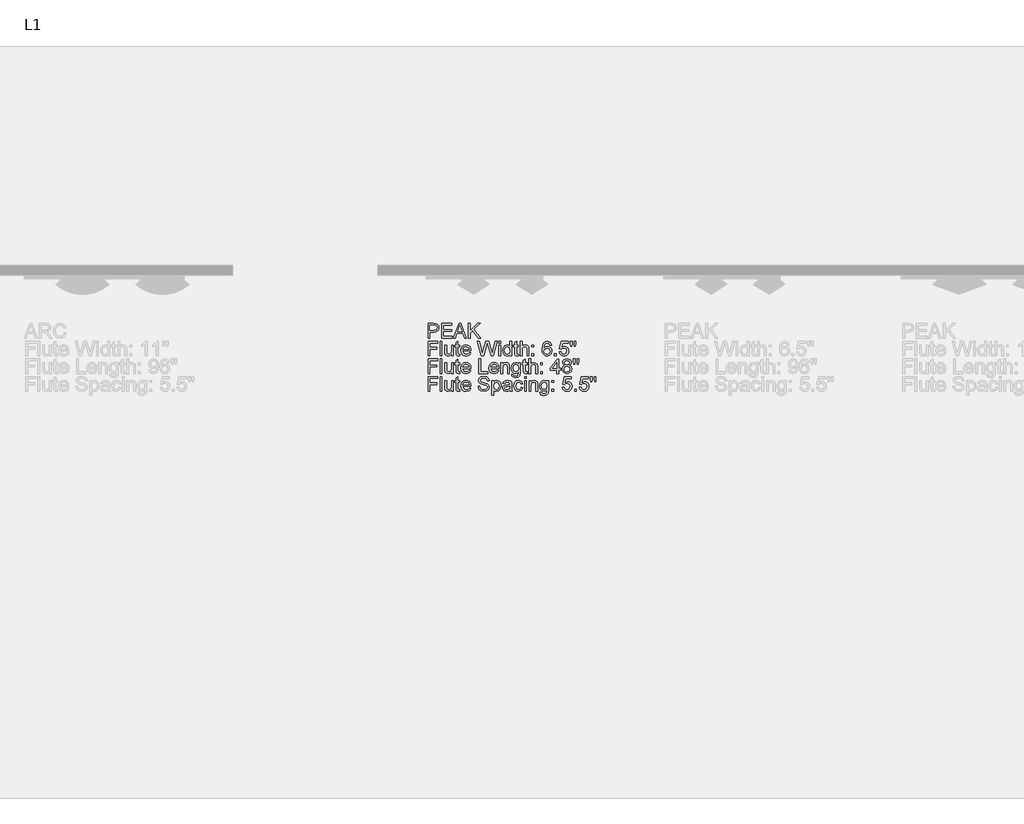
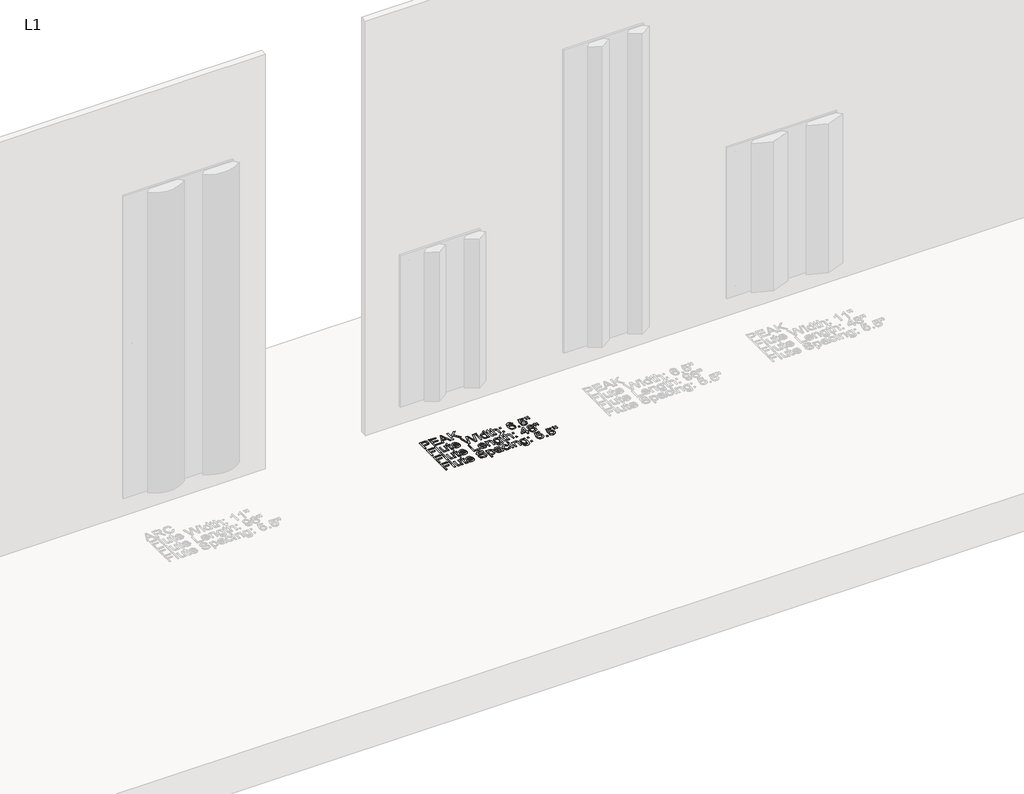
# One storey, part 7 of 17: 1 proxy.
"""IFC4 building model written with IfcOpenShell, lengths in millimetres."""

from ifc_helpers import new_model, si_unit, origin, origin_with_axes, place, context, project, spatial, polyline, outline, extrude, element, save

model = new_model("IFC4")

# Units and contexts
model_context = context("Model", 3, world=origin())
ifc_project = project(units=[si_unit("LENGTHUNIT", "METRE", prefix="MILLI")], contexts=[model_context])

# Site, building, storey
site = spatial("IfcSite", under=ifc_project)
building = spatial("IfcBuilding", under=site)
storey = spatial("IfcBuildingStorey", under=building, Name="L1", Elevation=0.0)

# Proxy
placement = place(None, origin())
element("IfcBuildingElementProxy", 1, Name="3\" Arial", ObjectType="3\" Arial", at=placement, inside=storey, context=model_context, shape_type="SweptSolid", body=[
    extrude(outline(polyline([(7583.9224056, -355.6), (7583.9224056, -279.0522917), (7612.2914049, -279.0522917), (7623.728709, -279.7811395), (7633.0261907, -283.3599691), (7639.0532014, -290.7605776), (7641.3331868, -301.198052), (7639.7937295, -310.2198797), (7635.1753573, -317.7372908), (7626.538978, -322.8111928), (7612.9454991, -324.5024935), (7593.4908691, -324.5024935), (7593.4908691, -355.6), (7583.9224056, -355.6)]), holes=[polyline([(7593.4908691, -314.9340299), (7613.5061513, -314.9340299), (7627.5972089, -311.4206097), (7631.7647233, -301.5344433), (7629.307198, -293.6105594), (7622.850354, -289.2748494), (7613.2818904, -288.6207552), (7593.4908691, -288.6207552), (7593.4908691, -314.9340299)])]), origin_with_axes(), (0.0, 0.0, 1.0), 3.175),
    extrude(outline(polyline([(7654.4898242, -355.6), (7654.4898242, -279.0522917), (7709.5084896, -279.0522917), (7709.5084896, -288.6207552), (7664.0582878, -288.6207552), (7664.0582878, -311.3458561), (7707.1163737, -311.3458561), (7707.1163737, -320.9143197), (7664.0582878, -320.9143197), (7664.0582878, -346.0315365), (7710.7045475, -346.0315365), (7710.7045475, -355.6), (7654.4898242, -355.6)])), origin_with_axes(), (0.0, 0.0, 1.0), 3.175),
    extrude(outline(polyline([(7716.1615619, -355.6), (7746.7171046, -279.0522917), (7754.8652494, -279.0522917), (7785.4021037, -355.6), (7775.2916764, -355.6), (7766.5455027, -331.6788411), (7734.9994745, -331.6788411), (7726.2533008, -355.6), (7716.1615619, -355.6)]), holes=[polyline([(7738.5128947, -322.1103776), (7763.0507709, -322.1103776), (7756.1360609, -303.2911534), (7750.7724886, -288.6207552), (7746.0069452, -301.6465737), (7738.5128947, -322.1103776)])]), origin_with_axes(), (0.0, 0.0, 1.0), 3.175),
    extrude(outline(polyline([(7795.6246615, -355.6), (7795.6246615, -279.0522917), (7805.193125, -279.0522917), (7805.193125, -316.5225444), (7844.4387762, -279.0522917), (7857.8196745, -279.0522917), (7824.8533274, -310.5235663), (7859.0157324, -355.6), (7847.3167907, -355.6), (7818.0694363, -316.9897545), (7805.193125, -329.2867253), (7805.193125, -355.6), (7795.6246615, -355.6)])), origin_with_axes(), (0.0, 0.0, 1.0), 3.175),
    extrude(outline(polyline([(7583.9224056, -448.5448112), (7583.9224056, -371.9971029), (7635.3528971, -371.9971029), (7635.3528971, -381.5655664), (7593.4908691, -381.5655664), (7593.4908691, -404.2906673), (7629.3726074, -404.2906673), (7629.3726074, -413.8591309), (7593.4908691, -413.8591309), (7593.4908691, -448.5448112), (7583.9224056, -448.5448112)])), origin_with_axes(), (0.0, 0.0, 1.0), 3.175),
    extrude(outline(polyline([(7647.3134766, -448.5448112), (7647.3134766, -371.9971029), (7656.8819401, -371.9971029), (7656.8819401, -448.5448112), (7647.3134766, -448.5448112)])), origin_with_axes(), (0.0, 0.0, 1.0), 3.175),
    extrude(outline(polyline([(7707.1163737, -448.5448112), (7707.1163737, -438.8829056), (7699.6223232, -447.0263783), (7689.8482872, -449.7408691), (7680.84982, -447.8346518), (7674.6452694, -443.05042), (7671.7952876, -436.0048912), (7671.2346354, -427.1092103), (7671.2346354, -392.3300879), (7680.803099, -392.3300879), (7680.803099, -422.6053046), (7681.3824395, -432.3606522), (7685.1668416, -438.0886484), (7692.2964683, -440.1724056), (7700.2857615, -438.0419274), (7705.5652361, -432.2391775), (7707.1163737, -421.5774423), (7707.1163737, -392.3300879), (7716.6848372, -392.3300879), (7716.6848372, -448.5448112), (7707.1163737, -448.5448112)])), origin_with_axes(), (0.0, 0.0, 1.0), 3.175),
    extrude(outline(polyline([(7750.1744596, -440.5648621), (7751.3705176, -448.8251373), (7744.2128583, -449.7408691), (7736.1955324, -448.1523547), (7732.1962137, -443.9848403), (7731.0375326, -433.1268768), (7731.0375326, -401.8985514), (7723.8611849, -401.8985514), (7723.8611849, -392.3300879), (7731.0375326, -392.3300879), (7731.0375326, -378.6688636), (7740.6059961, -373.0436536), (7740.6059961, -392.3300879), (7750.1744596, -392.3300879), (7750.1744596, -401.8985514), (7740.6059961, -401.8985514), (7740.6059961, -432.8465507), (7741.110583, -437.7802897), (7742.7458185, -439.5276556), (7746.0069452, -440.1724056), (7750.1744596, -440.5648621)])), origin_with_axes(), (0.0, 0.0, 1.0), 3.175),
    extrude(outline(polyline([(7799.1007049, -431.8), (7808.4822843, -432.9960579), (7799.708078, -445.3490939), (7783.3650675, -449.7408691), (7772.138008, -447.846332), (7763.4992927, -442.1627208), (7757.9908852, -433.0591313), (7756.1547494, -420.9046597), (7758.0095736, -408.3413792), (7763.5740463, -398.9457834), (7772.0959591, -393.0869683), (7782.8231038, -391.1340299), (7793.2161932, -393.0822962), (7801.5208533, -398.927095), (7806.9661875, -408.3040024), (7808.7812988, -420.8485945), (7808.7252336, -423.4275944), (7765.7232129, -423.4275944), (7771.2269483, -435.855384), (7783.5519516, -440.1724056), (7792.9335311, -438.1727462), (7799.1007049, -431.8)]), holes=[polyline([(7765.7232129, -413.8591309), (7799.2128353, -413.8591309), (7795.3817122, -405.1877108), (7782.785727, -400.7024935), (7771.0026874, -404.2813231), (7765.7232129, -413.8591309)])]), origin_with_axes(), (0.0, 0.0, 1.0), 3.175),
    extrude(outline(polyline([(7863.14587, -448.5448112), (7842.2709212, -371.9971029), (7852.1383993, -371.9971029), (7864.2484859, -422.3062901), (7867.986167, -437.8363549), (7871.9854857, -424.100377), (7887.1604709, -371.9971029), (7901.3823474, -371.9971029), (7912.4085065, -409.7663701), (7920.6127165, -437.8363549), (7924.2382671, -422.7548118), (7936.4417958, -371.9971029), (7946.3279622, -371.9971029), (7925.4717019, -448.5448112), (7915.2304557, -448.5448112), (7896.8597533, -389.4894503), (7894.2994417, -381.2478635), (7891.4214273, -391.1714068), (7874.6953045, -448.5448112), (7863.14587, -448.5448112)])), origin_with_axes(), (0.0, 0.0, 1.0), 3.175),
    extrude(outline(polyline([(7954.7003678, -381.5655664), (7954.7003678, -371.9971029), (7964.2688314, -371.9971029), (7964.2688314, -381.5655664), (7954.7003678, -381.5655664)])), origin_with_axes(), (0.0, 0.0, 1.0), 3.175),
    extrude(outline(polyline([(7954.7003678, -448.5448112), (7954.7003678, -392.3300879), (7964.2688314, -392.3300879), (7964.2688314, -448.5448112), (7954.7003678, -448.5448112)])), origin_with_axes(), (0.0, 0.0, 1.0), 3.175),
    extrude(outline(polyline([(8013.307207, -448.5448112), (8013.307207, -439.5183114), (8006.9765097, -447.1852297), (7998.2256639, -449.7408691), (7986.3772149, -446.0405649), (7978.0048093, -435.7152209), (7975.0333529, -420.4935148), (7977.7712043, -405.2624644), (7985.9754142, -394.778269), (7998.1882871, -391.1340299), (8007.0092144, -393.7410625), (8013.307207, -400.5156094), (8013.307207, -371.9971029), (8022.8756706, -371.9971029), (8022.8756706, -448.5448112), (8013.307207, -448.5448112)]), holes=[polyline([(7984.6018164, -420.4561379), (7988.918838, -435.2666992), (7999.104019, -440.1724056), (8009.1677252, -435.4909601), (8013.307207, -421.1849858), (8009.0929716, -405.6549209), (7998.7115625, -400.7024935), (7988.638512, -405.4586927), (7984.6018164, -420.4561379)])]), origin_with_axes(), (0.0, 0.0, 1.0), 3.175),
    extrude(outline(polyline([(8057.5613509, -440.5648621), (8058.7574089, -448.8251373), (8051.5997496, -449.7408691), (8043.5824237, -448.1523547), (8039.583105, -443.9848403), (8038.4244238, -433.1268768), (8038.4244238, -401.8985514), (8031.2480762, -401.8985514), (8031.2480762, -392.3300879), (8038.4244238, -392.3300879), (8038.4244238, -378.6688636), (8047.9928874, -373.0436536), (8047.9928874, -392.3300879), (8057.5613509, -392.3300879), (8057.5613509, -401.8985514), (8047.9928874, -401.8985514), (8047.9928874, -432.8465507), (8048.4974743, -437.7802897), (8050.1327098, -439.5276556), (8053.3938365, -440.1724056), (8057.5613509, -440.5648621)])), origin_with_axes(), (0.0, 0.0, 1.0), 3.175),
    extrude(outline(polyline([(8067.1298145, -448.5448112), (8067.1298145, -371.9971029), (8076.698278, -371.9971029), (8076.698278, -400.1418413), (8084.1596238, -393.3859828), (8093.3496472, -391.1340299), (8104.0954802, -393.5915553), (8110.6177337, -400.3847906), (8112.5800163, -412.9620874), (8112.5800163, -448.5448112), (8103.0115527, -448.5448112), (8103.0115527, -413.9525729), (8099.9653427, -403.860834), (8091.3312994, -400.7024935), (8083.4915133, -402.8329717), (8078.2587598, -408.607689), (8076.698278, -418.6807394), (8076.698278, -448.5448112), (8067.1298145, -448.5448112)])), origin_with_axes(), (0.0, 0.0, 1.0), 3.175),
    extrude(outline(polyline([(8128.1287695, -401.8985514), (8128.1287695, -392.3300879), (8137.6972331, -392.3300879), (8137.6972331, -401.8985514), (8128.1287695, -401.8985514)])), origin_with_axes(), (0.0, 0.0, 1.0), 3.175),
    extrude(outline(polyline([(8128.1287695, -448.5448112), (8128.1287695, -438.9763477), (8137.6972331, -438.9763477), (8137.6972331, -448.5448112), (8128.1287695, -448.5448112)])), origin_with_axes(), (0.0, 0.0, 1.0), 3.175),
    extrude(outline(polyline([(8232.1858106, -392.3300879), (8222.617347, -393.5261458), (8218.9917964, -385.5461967), (8209.4046444, -381.5655664), (8200.7706012, -383.8829287), (8194.2390035, -392.5823814), (8191.5198405, -409.6355512), (8199.9576555, -402.0013377), (8210.4138183, -399.5064355), (8219.253434, -401.2117525), (8226.672731, -406.3277035), (8231.7045841, -414.144129), (8233.3818685, -423.9508698), (8230.223528, -437.1542281), (8221.5334195, -446.4984308), (8208.9934995, -449.7408691), (8198.137872, -447.5917025), (8189.4921485, -441.1442027), (8183.8365698, -429.7629638), (8181.951377, -412.8125802), (8184.0444784, -393.7550788), (8190.3237826, -380.7245882), (8198.8970885, -374.1789742), (8210.0026734, -371.9971029), (8225.1215933, -377.398052), (8232.1858106, -392.3300879)]), holes=[polyline([(8191.5198405, -423.8013625), (8193.7344165, -432.0896703), (8199.6212642, -438.1073368), (8208.2459633, -440.1724056), (8219.5244159, -435.8927608), (8223.813405, -424.2685726), (8219.5804811, -413.1396273), (8207.8535068, -409.0748991), (8196.2760397, -413.1396273), (8191.5198405, -423.8013625)])]), origin_with_axes(), (0.0, 0.0, 1.0), 3.175),
    extrude(outline(polyline([(8246.5385059, -448.5448112), (8246.5385059, -438.9763477), (8256.1069694, -438.9763477), (8256.1069694, -448.5448112), (8246.5385059, -448.5448112)])), origin_with_axes(), (0.0, 0.0, 1.0), 3.175),
    extrude(outline(polyline([(8271.6557227, -428.2118262), (8281.2241862, -427.0157682), (8286.0457948, -436.8739021), (8296.0440917, -440.1724056), (8308.0420479, -435.5844021), (8312.3216927, -423.408906), (8308.3130298, -412.0463555), (8296.1935989, -407.8788411), (8287.7931607, -409.5421092), (8282.4202441, -413.8591309), (8272.8517806, -412.6630729), (8281.2241862, -373.1931608), (8318.3019824, -373.1931608), (8318.3019824, -382.7616243), (8288.961186, -382.7616243), (8284.8497368, -403.8421456), (8298.8473525, -398.3103776), (8307.7897544, -400.0250388), (8315.2183955, -405.1690224), (8320.2222161, -413.0088084), (8321.8901563, -422.810877), (8320.3904117, -432.3793406), (8315.8911781, -440.5648621), (8307.2758233, -447.4468674), (8296.0067148, -449.7408691), (8286.608783, -448.2668212), (8279.1217406, -443.8446773), (8273.9894373, -436.9883685), (8271.6557227, -428.2118262)])), origin_with_axes(), (0.0, 0.0, 1.0), 3.175),
    extrude(outline(polyline([(8332.5986125, -399.5064355), (8330.2625619, -384.7239069), (8330.2625619, -371.9971029), (8339.8310254, -371.9971029), (8339.8310254, -384.7239069), (8337.737924, -399.5064355), (8332.5986125, -399.5064355)])), origin_with_axes(), (0.0, 0.0, 1.0), 3.175),
    extrude(outline(polyline([(8351.6794744, -399.5064355), (8349.3994889, -384.7239069), (8349.3994889, -371.9971029), (8358.9679525, -371.9971029), (8358.9679525, -384.7239069), (8356.7253438, -399.5064355), (8351.6794744, -399.5064355)])), origin_with_axes(), (0.0, 0.0, 1.0), 3.175),
    extrude(outline(polyline([(7583.9224056, -541.4896224), (7583.9224056, -464.9419141), (7635.3528971, -464.9419141), (7635.3528971, -474.5103776), (7593.4908691, -474.5103776), (7593.4908691, -497.2354785), (7629.3726074, -497.2354785), (7629.3726074, -506.8039421), (7593.4908691, -506.8039421), (7593.4908691, -541.4896224), (7583.9224056, -541.4896224)])), origin_with_axes(), (0.0, 0.0, 1.0), 3.175),
    extrude(outline(polyline([(7647.3134766, -541.4896224), (7647.3134766, -464.9419141), (7656.8819401, -464.9419141), (7656.8819401, -541.4896224), (7647.3134766, -541.4896224)])), origin_with_axes(), (0.0, 0.0, 1.0), 3.175),
    extrude(outline(polyline([(7707.1163737, -541.4896224), (7707.1163737, -531.8277168), (7699.6223232, -539.9711895), (7689.8482872, -542.6856803), (7680.84982, -540.779463), (7674.6452694, -535.9952312), (7671.7952876, -528.9497024), (7671.2346354, -520.0540215), (7671.2346354, -485.2748991), (7680.803099, -485.2748991), (7680.803099, -515.5501158), (7681.3824395, -525.3054634), (7685.1668416, -531.0334596), (7692.2964683, -533.1172168), (7700.2857615, -530.9867386), (7705.5652361, -525.1839887), (7707.1163737, -514.5222535), (7707.1163737, -485.2748991), (7716.6848372, -485.2748991), (7716.6848372, -541.4896224), (7707.1163737, -541.4896224)])), origin_with_axes(), (0.0, 0.0, 1.0), 3.175),
    extrude(outline(polyline([(7750.1744596, -533.5096733), (7751.3705176, -541.7699485), (7744.2128583, -542.6856803), (7736.1955324, -541.0971659), (7732.1962137, -536.9296515), (7731.0375326, -526.071688), (7731.0375326, -494.8433626), (7723.8611849, -494.8433626), (7723.8611849, -485.2748991), (7731.0375326, -485.2748991), (7731.0375326, -471.6136748), (7740.6059961, -465.9884648), (7740.6059961, -485.2748991), (7750.1744596, -485.2748991), (7750.1744596, -494.8433626), (7740.6059961, -494.8433626), (7740.6059961, -525.7913619), (7741.110583, -530.7251009), (7742.7458185, -532.4724668), (7746.0069452, -533.1172168), (7750.1744596, -533.5096733)])), origin_with_axes(), (0.0, 0.0, 1.0), 3.175),
    extrude(outline(polyline([(7799.1007049, -524.7448112), (7808.4822843, -525.9408691), (7799.708078, -538.2939051), (7783.3650675, -542.6856803), (7772.138008, -540.7911432), (7763.4992927, -535.107532), (7757.9908852, -526.0039425), (7756.1547494, -513.8494709), (7758.0095736, -501.2861904), (7763.5740463, -491.8905946), (7772.0959591, -486.0317795), (7782.8231038, -484.0788411), (7793.2161932, -486.0271074), (7801.5208533, -491.8719062), (7806.9661875, -501.2488136), (7808.7812988, -513.7934057), (7808.7252336, -516.3724056), (7765.7232129, -516.3724056), (7771.2269483, -528.8001952), (7783.5519516, -533.1172168), (7792.9335311, -531.1175574), (7799.1007049, -524.7448112)]), holes=[polyline([(7765.7232129, -506.8039421), (7799.2128353, -506.8039421), (7795.3817122, -498.132522), (7782.785727, -493.6473047), (7771.0026874, -497.2261343), (7765.7232129, -506.8039421)])]), origin_with_axes(), (0.0, 0.0, 1.0), 3.175),
    extrude(outline(polyline([(7849.4472689, -541.4896224), (7849.4472689, -464.9419141), (7859.0157324, -464.9419141), (7859.0157324, -531.9211589), (7897.2895866, -531.9211589), (7897.2895866, -541.4896224), (7849.4472689, -541.4896224)])), origin_with_axes(), (0.0, 0.0, 1.0), 3.175),
    extrude(outline(polyline([(7946.2158318, -524.7448112), (7955.5974113, -525.9408691), (7946.823205, -538.2939051), (7930.4801945, -542.6856803), (7919.253135, -540.7911432), (7910.6144196, -535.107532), (7905.1060121, -526.0039425), (7903.2698763, -513.8494709), (7905.1247005, -501.2861904), (7910.6891732, -491.8905946), (7919.2110861, -486.0317795), (7929.9382307, -484.0788411), (7940.3313202, -486.0271074), (7948.6359803, -491.8719062), (7954.0813144, -501.2488136), (7955.8964258, -513.7934057), (7955.8403606, -516.3724056), (7912.8383398, -516.3724056), (7918.3420752, -528.8001952), (7930.6670786, -533.1172168), (7940.048658, -531.1175574), (7946.2158318, -524.7448112)]), holes=[polyline([(7912.8383398, -506.8039421), (7946.3279622, -506.8039421), (7942.4968391, -498.132522), (7929.9008539, -493.6473047), (7918.1178144, -497.2261343), (7912.8383398, -506.8039421)])]), origin_with_axes(), (0.0, 0.0, 1.0), 3.175),
    extrude(outline(polyline([(7965.4648893, -541.4896224), (7965.4648893, -485.2748991), (7975.0333529, -485.2748991), (7975.0333529, -493.1240293), (7982.3498636, -486.3401382), (7992.3388162, -484.0788411), (8001.3746602, -485.9009607), (8007.541834, -490.6851924), (8010.4105042, -497.7213771), (8010.9150911, -506.9721377), (8010.9150911, -541.4896224), (8001.3466276, -541.4896224), (8001.3466276, -508.2616377), (8000.2440117, -499.79579), (7996.3474792, -495.319917), (7989.7785047, -493.6473047), (7979.3970955, -497.4036742), (7975.0333529, -511.6629274), (7975.0333529, -541.4896224), (7965.4648893, -541.4896224)])), origin_with_axes(), (0.0, 0.0, 1.0), 3.175),
    extrude(outline(polyline([(8021.6796126, -546.2738542), (8031.2480762, -547.4699121), (8034.3503515, -552.5157816), (8043.6384889, -554.6462598), (8053.4312133, -552.2354555), (8058.1033147, -545.4702527), (8058.7574089, -534.3132747), (8052.0202387, -539.6955355), (8043.8066846, -541.4896224), (8033.9415426, -539.4011931), (8026.585319, -533.1359052), (8022.0089958, -523.950554), (8020.4835547, -513.1019347), (8023.2214061, -498.272685), (8031.1452899, -487.7791454), (8043.3394744, -484.0788411), (8051.8754036, -486.1719425), (8058.7574089, -492.4512467), (8058.7574089, -485.2748991), (8068.3258724, -485.2748991), (8068.3258724, -533.8086878), (8065.7094957, -552.3943069), (8057.4211879, -561.0376944), (8043.4516049, -564.2147233), (8027.5384277, -559.7388502), (8023.0415302, -554.1346647), (8021.6796126, -546.2738542)]), holes=[polyline([(8030.0520182, -512.4478405), (8034.1354348, -527.2584017), (8044.3860251, -531.9211589), (8054.6179271, -527.2864343), (8058.7574089, -512.7281666), (8054.4964524, -498.4595691), (8044.2365179, -493.6473047), (8034.1915, -498.3848154), (8030.0520182, -512.4478405)])]), origin_with_axes(), (0.0, 0.0, 1.0), 3.175),
    extrude(outline(polyline([(8103.0115527, -533.5096733), (8104.2076107, -541.7699485), (8097.0499514, -542.6856803), (8089.0326255, -541.0971659), (8085.0333068, -536.9296515), (8083.8746257, -526.071688), (8083.8746257, -494.8433626), (8076.698278, -494.8433626), (8076.698278, -485.2748991), (8083.8746257, -485.2748991), (8083.8746257, -471.6136748), (8093.4430892, -465.9884648), (8093.4430892, -485.2748991), (8103.0115527, -485.2748991), (8103.0115527, -494.8433626), (8093.4430892, -494.8433626), (8093.4430892, -525.7913619), (8093.9476761, -530.7251009), (8095.5829116, -532.4724668), (8098.8440383, -533.1172168), (8103.0115527, -533.5096733)])), origin_with_axes(), (0.0, 0.0, 1.0), 3.175),
    extrude(outline(polyline([(8112.5800163, -541.4896224), (8112.5800163, -464.9419141), (8122.1484798, -464.9419141), (8122.1484798, -493.0866525), (8129.6098257, -486.330794), (8138.799849, -484.0788411), (8149.5456821, -486.5363664), (8156.0679355, -493.3296018), (8158.0302181, -505.9068986), (8158.0302181, -541.4896224), (8148.4617546, -541.4896224), (8148.4617546, -506.8973841), (8145.4155445, -496.8056452), (8136.7815012, -493.6473047), (8128.9417152, -495.7777829), (8123.7089617, -501.5525002), (8122.1484798, -511.6255506), (8122.1484798, -541.4896224), (8112.5800163, -541.4896224)])), origin_with_axes(), (0.0, 0.0, 1.0), 3.175),
    extrude(outline(polyline([(8173.5789714, -494.8433626), (8173.5789714, -485.2748991), (8183.1474349, -485.2748991), (8183.1474349, -494.8433626), (8173.5789714, -494.8433626)])), origin_with_axes(), (0.0, 0.0, 1.0), 3.175),
    extrude(outline(polyline([(8173.5789714, -541.4896224), (8173.5789714, -531.9211589), (8183.1474349, -531.9211589), (8183.1474349, -541.4896224), (8173.5789714, -541.4896224)])), origin_with_axes(), (0.0, 0.0, 1.0), 3.175),
    extrude(outline(polyline([(8259.6951432, -541.4896224), (8259.6951432, -523.5487533), (8225.0094629, -523.5487533), (8225.0094629, -513.9802897), (8262.0872591, -466.137972), (8269.2636068, -466.137972), (8269.2636068, -513.9802897), (8278.8320703, -513.9802897), (8278.8320703, -523.5487533), (8269.2636068, -523.5487533), (8269.2636068, -541.4896224), (8259.6951432, -541.4896224)]), holes=[polyline([(8259.6951432, -513.9802897), (8259.6951432, -484.4152324), (8236.7831583, -513.9802897), (8259.6951432, -513.9802897)])]), origin_with_axes(), (0.0, 0.0, 1.0), 3.175),
    extrude(outline(polyline([(8301.1460263, -499.3285799), (8292.4278852, -493.385667), (8289.5965918, -484.1349064), (8291.1383852, -476.6548721), (8295.7637656, -470.473682), (8302.9541295, -466.3248561), (8312.1908739, -464.9419141), (8321.4836834, -466.3575608), (8328.7674894, -470.6045009), (8333.4769676, -476.8838051), (8335.0467936, -484.396544), (8332.252877, -493.4136996), (8323.7776852, -499.3285799), (8333.9535219, -506.8319747), (8337.4389095, -519.2130432), (8335.710232, -528.3610176), (8330.5241995, -535.9204776), (8322.5162178, -540.9943797), (8312.3216927, -542.6856803), (8302.1271676, -540.9873715), (8294.1191859, -535.892445), (8288.9331534, -528.2605675), (8287.2044759, -518.9514055), (8290.8300266, -506.2806667), (8301.1460263, -499.3285799)]), holes=[polyline([(8299.1650553, -484.4152324), (8302.5570009, -491.9279714), (8312.4338231, -494.8433626), (8322.1144171, -491.9466598), (8325.4783301, -484.8450658), (8322.0022867, -477.4911783), (8312.3216927, -474.5103776), (8302.6130661, -477.4257688), (8299.1650553, -484.4152324)]), polyline([(8296.7729395, -518.6150142), (8298.3707981, -525.8193945), (8304.0240407, -531.2109995), (8312.3964463, -533.1172168), (8323.7963736, -529.1085538), (8327.870446, -518.9140287), (8323.6655548, -508.5232753), (8312.0787434, -504.4118262), (8300.8189792, -508.4672101), (8296.7729395, -518.6150142)])]), origin_with_axes(), (0.0, 0.0, 1.0), 3.175),
    extrude(outline(polyline([(8348.1473658, -492.4512467), (8345.8113151, -477.6687181), (8345.8113151, -464.9419141), (8355.3797787, -464.9419141), (8355.3797787, -477.6687181), (8353.2866773, -492.4512467), (8348.1473658, -492.4512467)])), origin_with_axes(), (0.0, 0.0, 1.0), 3.175),
    extrude(outline(polyline([(8367.2282276, -492.4512467), (8364.9482422, -477.6687181), (8364.9482422, -464.9419141), (8374.5167057, -464.9419141), (8374.5167057, -477.6687181), (8372.2740971, -492.4512467), (8367.2282276, -492.4512467)])), origin_with_axes(), (0.0, 0.0, 1.0), 3.175),
    extrude(outline(polyline([(7583.9224056, -634.4344336), (7583.9224056, -557.8867253), (7635.3528971, -557.8867253), (7635.3528971, -567.4551888), (7593.4908691, -567.4551888), (7593.4908691, -590.1802897), (7629.3726074, -590.1802897), (7629.3726074, -599.7487533), (7593.4908691, -599.7487533), (7593.4908691, -634.4344336), (7583.9224056, -634.4344336)])), origin_with_axes(), (0.0, 0.0, 1.0), 3.175),
    extrude(outline(polyline([(7647.3134766, -634.4344336), (7647.3134766, -557.8867253), (7656.8819401, -557.8867253), (7656.8819401, -634.4344336), (7647.3134766, -634.4344336)])), origin_with_axes(), (0.0, 0.0, 1.0), 3.175),
    extrude(outline(polyline([(7707.1163737, -634.4344336), (7707.1163737, -624.772528), (7699.6223232, -632.9160007), (7689.8482872, -635.6304915), (7680.84982, -633.7242742), (7674.6452694, -628.9400424), (7671.7952876, -621.8945136), (7671.2346354, -612.9988327), (7671.2346354, -578.2197103), (7680.803099, -578.2197103), (7680.803099, -608.494927), (7681.3824395, -618.2502746), (7685.1668416, -623.9782708), (7692.2964683, -626.062028), (7700.2857615, -623.9315498), (7705.5652361, -618.1287999), (7707.1163737, -607.4670647), (7707.1163737, -578.2197103), (7716.6848372, -578.2197103), (7716.6848372, -634.4344336), (7707.1163737, -634.4344336)])), origin_with_axes(), (0.0, 0.0, 1.0), 3.175),
    extrude(outline(polyline([(7750.1744596, -626.4544845), (7751.3705176, -634.7147597), (7744.2128583, -635.6304915), (7736.1955324, -634.0419771), (7732.1962137, -629.8744627), (7731.0375326, -619.0164992), (7731.0375326, -587.7881738), (7723.8611849, -587.7881738), (7723.8611849, -578.2197103), (7731.0375326, -578.2197103), (7731.0375326, -564.558486), (7740.6059961, -558.933276), (7740.6059961, -578.2197103), (7750.1744596, -578.2197103), (7750.1744596, -587.7881738), (7740.6059961, -587.7881738), (7740.6059961, -618.7361731), (7741.110583, -623.6699121), (7742.7458185, -625.417278), (7746.0069452, -626.062028), (7750.1744596, -626.4544845)])), origin_with_axes(), (0.0, 0.0, 1.0), 3.175),
    extrude(outline(polyline([(7799.1007049, -617.6896224), (7808.4822843, -618.8856803), (7799.708078, -631.2387163), (7783.3650675, -635.6304915), (7772.138008, -633.7359544), (7763.4992927, -628.0523432), (7757.9908852, -618.9487537), (7756.1547494, -606.7942821), (7758.0095736, -594.2310016), (7763.5740463, -584.8354058), (7772.0959591, -578.9765907), (7782.8231038, -577.0236523), (7793.2161932, -578.9719186), (7801.5208533, -584.8167174), (7806.9661875, -594.1936248), (7808.7812988, -606.7382169), (7808.7252336, -609.3172168), (7765.7232129, -609.3172168), (7771.2269483, -621.7450064), (7783.5519516, -626.062028), (7792.9335311, -624.0623686), (7799.1007049, -617.6896224)]), holes=[polyline([(7765.7232129, -599.7487533), (7799.2128353, -599.7487533), (7795.3817122, -591.0773332), (7782.785727, -586.5921159), (7771.0026874, -590.1709455), (7765.7232129, -599.7487533)])]), origin_with_axes(), (0.0, 0.0, 1.0), 3.175),
    extrude(outline(polyline([(7845.8590951, -608.1211589), (7855.4275586, -608.1211589), (7858.5111455, -617.6989666), (7866.0425728, -623.7540099), (7877.5172537, -626.062028), (7887.5155506, -624.3146621), (7893.9723946, -619.5117419), (7896.0935286, -613.0922747), (7894.5050142, -607.1213292), (7888.0014491, -602.7762749), (7874.0692429, -599.1226917), (7859.0717976, -594.4038693), (7850.9329971, -587.2835869), (7848.2512109, -577.7711886), (7851.5684029, -566.9412577), (7861.2583411, -559.2976999), (7875.4428407, -556.6906673), (7890.5804491, -559.4191745), (7900.672188, -567.4365004), (7904.4659342, -579.4157682), (7894.8974707, -579.4157682), (7889.4778332, -569.585667), (7875.8166088, -566.2591309), (7862.1180077, -569.5482902), (7857.8196745, -577.4908625), (7860.8658846, -584.1252464), (7876.4893914, -589.4701303), (7893.4210867, -594.2730505), (7902.6811915, -602.0287387), (7905.6619922, -612.8493254), (7902.2326698, -624.2959737), (7892.3651918, -632.6496909), (7877.8910218, -635.6304915), (7860.8004751, -632.4160858), (7849.9892326, -622.7354918), (7845.8590951, -608.1211589)])), origin_with_axes(), (0.0, 0.0, 1.0), 3.175),
    extrude(outline(polyline([(7918.8186296, -655.9634766), (7918.8186296, -578.2197103), (7928.3870931, -578.2197103), (7928.3870931, -587.6012898), (7935.0027886, -579.6680617), (7943.9358464, -577.0236523), (7956.0646214, -580.7239566), (7963.9885053, -591.1520868), (7966.6609473, -605.8972386), (7963.6427698, -621.3992709), (7954.8779077, -631.9582199), (7942.7771652, -635.6304915), (7934.4514806, -633.1729662), (7928.3870931, -626.9590715), (7928.3870931, -655.9634766), (7918.8186296, -655.9634766)]), holes=[polyline([(7928.3870931, -606.7755937), (7932.5265749, -621.3525498), (7942.5715928, -626.062028), (7952.8221831, -621.1843542), (7957.0924837, -606.0654343), (7952.9249693, -591.4511013), (7942.9640493, -586.5921159), (7932.806901, -591.75946), (7928.3870931, -606.7755937)])]), origin_with_axes(), (0.0, 0.0, 1.0), 3.175),
    extrude(outline(polyline([(8013.307207, -627.2580859), (8004.0284138, -633.7429626), (7993.7778234, -635.6304915), (7979.8829941, -631.089209), (7975.0333529, -619.4837093), (7976.8648166, -611.9149051), (7981.677081, -606.420514), (7988.3768743, -603.2808619), (7996.6558379, -601.8418547), (8013.2511418, -598.5526953), (8013.307207, -596.4222171), (8010.6721419, -589.3579999), (8000.0945044, -586.5921159), (7990.4139105, -588.4329238), (7985.7978744, -594.9645215), (7976.2294108, -593.7684635), (7980.3688926, -584.4242609), (7988.7039214, -578.9485581), (8001.3279392, -577.0236523), (8012.9240947, -578.7242972), (8019.4743808, -582.9945979), (8022.4084604, -589.4888187), (8022.8756706, -597.8612243), (8022.8756706, -609.7657385), (8023.3615691, -626.3890751), (8025.2677865, -634.4344336), (8015.6993229, -634.4344336), (8013.307207, -627.2580859)]), holes=[polyline([(8013.307207, -608.1211589), (7997.8705842, -611.0552385), (7989.6383417, -612.6063761), (7985.9100048, -615.1293109), (7984.6018164, -618.8109267), (7987.4517982, -623.987615), (7995.8148596, -626.062028), (8005.4954536, -623.7726983), (8011.737381, -618.2315862), (8013.2511418, -610.8309776), (8013.307207, -608.1211589)])]), origin_with_axes(), (0.0, 0.0, 1.0), 3.175),
    extrude(outline(polyline([(8071.9140462, -614.1014486), (8081.4825098, -615.2975065), (8073.8015752, -630.2388866), (8058.62659, -635.6304915), (8048.4484173, -633.7499707), (8040.4894926, -628.1084084), (8035.3525172, -618.9534258), (8033.6401921, -606.5326444), (8036.5649275, -590.6381556), (8045.4792969, -580.4249421), (8058.4957712, -577.0236523), (8073.0446948, -581.6957537), (8080.2864518, -594.9645215), (8070.7179883, -596.1605794), (8066.279492, -588.993576), (8058.5705248, -586.5921159), (8047.4789562, -591.3202824), (8043.2086556, -606.2710067), (8047.3855142, -621.361894), (8058.3088871, -626.062028), (8067.3260427, -623.1279484), (8071.9140462, -614.1014486)])), origin_with_axes(), (0.0, 0.0, 1.0), 3.175),
    extrude(outline(polyline([(8089.8549154, -567.4551888), (8089.8549154, -557.8867253), (8099.4233789, -557.8867253), (8099.4233789, -567.4551888), (8089.8549154, -567.4551888)])), origin_with_axes(), (0.0, 0.0, 1.0), 3.175),
    extrude(outline(polyline([(8089.8549154, -634.4344336), (8089.8549154, -578.2197103), (8099.4233789, -578.2197103), (8099.4233789, -634.4344336), (8089.8549154, -634.4344336)])), origin_with_axes(), (0.0, 0.0, 1.0), 3.175),
    extrude(outline(polyline([(8113.7760742, -634.4344336), (8113.7760742, -578.2197103), (8123.3445378, -578.2197103), (8123.3445378, -586.0688405), (8130.6610485, -579.2849494), (8140.6500011, -577.0236523), (8149.6858451, -578.8457719), (8155.8530189, -583.6300036), (8158.7216891, -590.6661883), (8159.226276, -599.9169489), (8159.226276, -634.4344336), (8149.6578125, -634.4344336), (8149.6578125, -601.2064489), (8148.5551966, -592.7406012), (8144.6586641, -588.2647282), (8138.0896896, -586.5921159), (8127.7082804, -590.3484854), (8123.3445378, -604.6077386), (8123.3445378, -634.4344336), (8113.7760742, -634.4344336)])), origin_with_axes(), (0.0, 0.0, 1.0), 3.175),
    extrude(outline(polyline([(8169.9907975, -639.2186654), (8179.5592611, -640.4147233), (8182.6615364, -645.4605928), (8191.9496738, -647.591071), (8201.7423982, -645.1802667), (8206.4144996, -638.4150639), (8207.0685938, -627.2580859), (8200.3314236, -632.6403467), (8192.1178695, -634.4344336), (8182.2527275, -632.3460043), (8174.8965039, -626.0807164), (8170.3201807, -616.8953652), (8168.7947396, -606.0467459), (8171.532591, -591.2174962), (8179.4564748, -580.7239566), (8191.6506593, -577.0236523), (8200.1865885, -579.1167537), (8207.0685938, -585.3960579), (8207.0685938, -578.2197103), (8216.6370573, -578.2197103), (8216.6370573, -626.753499), (8214.0206805, -645.3391181), (8205.7323728, -653.9825056), (8191.7627898, -657.1595345), (8175.8496126, -652.6836614), (8171.3527151, -647.0794759), (8169.9907975, -639.2186654)]), holes=[polyline([(8178.3632031, -605.3926517), (8182.4466197, -620.2032129), (8192.69721, -624.8659701), (8202.929112, -620.2312455), (8207.0685938, -605.6729778), (8202.8076373, -591.4043803), (8192.5477028, -586.5921159), (8182.5026849, -591.3296266), (8178.3632031, -605.3926517)])]), origin_with_axes(), (0.0, 0.0, 1.0), 3.175),
    extrude(outline(polyline([(8233.3818685, -587.7881738), (8233.3818685, -578.2197103), (8242.950332, -578.2197103), (8242.950332, -587.7881738), (8233.3818685, -587.7881738)])), origin_with_axes(), (0.0, 0.0, 1.0), 3.175),
    extrude(outline(polyline([(8233.3818685, -634.4344336), (8233.3818685, -624.8659701), (8242.950332, -624.8659701), (8242.950332, -634.4344336), (8233.3818685, -634.4344336)])), origin_with_axes(), (0.0, 0.0, 1.0), 3.175),
    extrude(outline(polyline([(8288.4005339, -614.1014486), (8297.9689974, -612.9053906), (8302.790606, -622.7635245), (8312.7889028, -626.062028), (8324.7868591, -621.4740245), (8329.0665039, -609.2985284), (8325.057841, -597.9359779), (8312.9384101, -593.7684635), (8304.5379719, -595.4317316), (8299.1650553, -599.7487533), (8289.5965918, -598.5526953), (8297.9689974, -559.0827832), (8335.0467936, -559.0827832), (8335.0467936, -568.6512467), (8305.7059972, -568.6512467), (8301.594548, -589.731768), (8315.5921637, -584.2), (8324.5345656, -585.9146612), (8331.9632067, -591.0586448), (8336.9670273, -598.8984308), (8338.6349675, -608.7004994), (8337.1352229, -618.268963), (8332.6359893, -626.4544845), (8324.0206345, -633.3364898), (8312.751526, -635.6304915), (8303.3535942, -634.1564436), (8295.8665518, -629.7342996), (8290.7342485, -622.8779909), (8288.4005339, -614.1014486)])), origin_with_axes(), (0.0, 0.0, 1.0), 3.175),
    extrude(outline(polyline([(8351.7916048, -634.4344336), (8351.7916048, -624.8659701), (8361.3600684, -624.8659701), (8361.3600684, -634.4344336), (8351.7916048, -634.4344336)])), origin_with_axes(), (0.0, 0.0, 1.0), 3.175),
    extrude(outline(polyline([(8376.9088216, -614.1014486), (8386.4772852, -612.9053906), (8391.2988937, -622.7635245), (8401.2971906, -626.062028), (8413.2951468, -621.4740245), (8417.5747917, -609.2985284), (8413.5661287, -597.9359779), (8401.4466979, -593.7684635), (8393.0462596, -595.4317316), (8387.6733431, -599.7487533), (8378.1048796, -598.5526953), (8386.4772852, -559.0827832), (8423.5550814, -559.0827832), (8423.5550814, -568.6512467), (8394.214285, -568.6512467), (8390.1028358, -589.731768), (8404.1004514, -584.2), (8413.0428534, -585.9146612), (8420.4714945, -591.0586448), (8425.475315, -598.8984308), (8427.1432552, -608.7004994), (8425.6435107, -618.268963), (8421.1442771, -626.4544845), (8412.5289222, -633.3364898), (8401.2598138, -635.6304915), (8391.861882, -634.1564436), (8384.3748396, -629.7342996), (8379.2425362, -622.8779909), (8376.9088216, -614.1014486)])), origin_with_axes(), (0.0, 0.0, 1.0), 3.175),
    extrude(outline(polyline([(8437.8517115, -585.3960579), (8435.5156608, -570.6135293), (8435.5156608, -557.8867253), (8445.0841244, -557.8867253), (8445.0841244, -570.6135293), (8442.991023, -585.3960579), (8437.8517115, -585.3960579)])), origin_with_axes(), (0.0, 0.0, 1.0), 3.175),
    extrude(outline(polyline([(8456.9325734, -585.3960579), (8454.6525879, -570.6135293), (8454.6525879, -557.8867253), (8464.2210514, -557.8867253), (8464.2210514, -570.6135293), (8461.9784428, -585.3960579), (8456.9325734, -585.3960579)])), origin_with_axes(), (0.0, 0.0, 1.0), 3.175),
])

save(model, "model.ifc")
